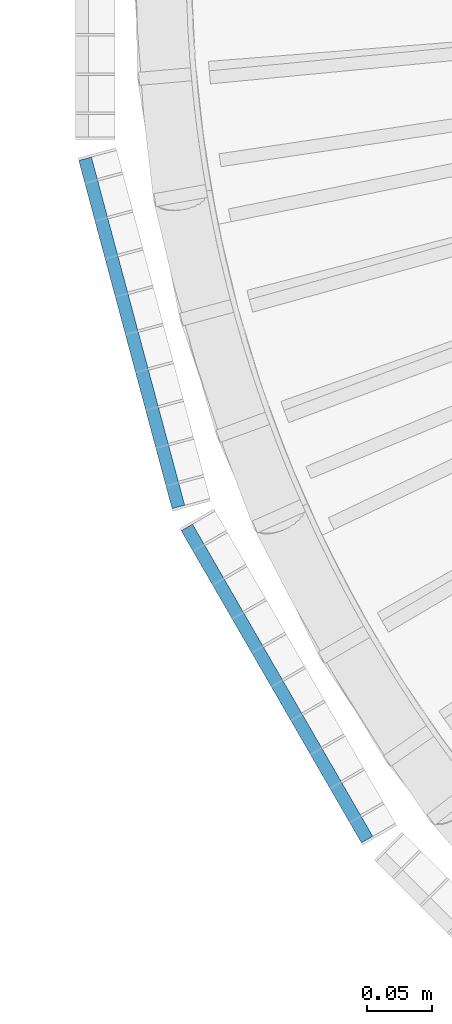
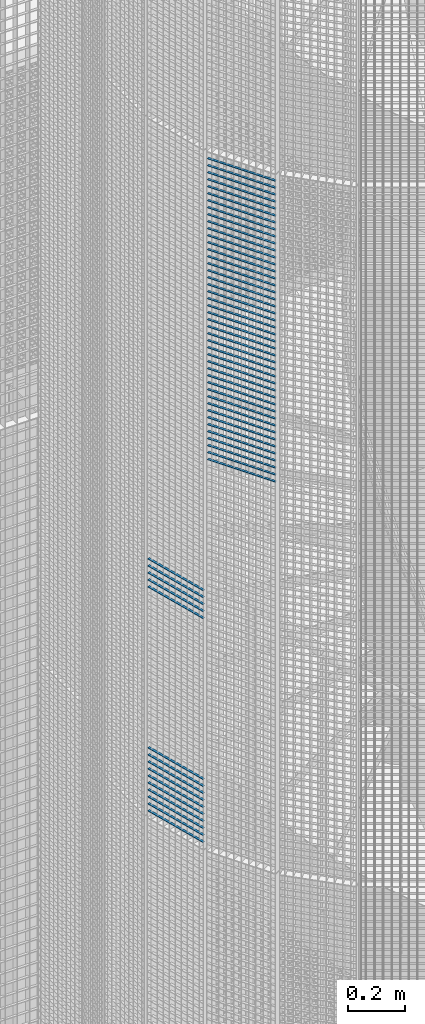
# One storey, part 355 of 1183: 59 beams, 2 elements without a shape of their own.
"""IFC2X3 building model written with IfcOpenShell, lengths in millimetres."""

from ifc_helpers import new_model, si_unit, frame, origin_with_axes, origin_2d_with_axis, place, context, subcontext, project, spatial, rectangle, extrude, material, type_object, element, aggregate, save


model = new_model("IFC2X3")

# Units and contexts
model_context = context("Model", 3, precision=1e-05, world=origin_with_axes())
body_context = subcontext(model_context, "Body", "Model", "MODEL_VIEW")
ifc_project = project(units=[si_unit("LENGTHUNIT", "METRE", prefix="MILLI"), si_unit("AREAUNIT", "SQUARE_METRE"), si_unit("VOLUMEUNIT", "CUBIC_METRE"), si_unit("MASSUNIT", "GRAM", prefix="KILO"), si_unit("TIMEUNIT", "SECOND"), si_unit("PLANEANGLEUNIT", "RADIAN"), si_unit("SOLIDANGLEUNIT", "STERADIAN"), si_unit("THERMODYNAMICTEMPERATUREUNIT", "DEGREE_CELSIUS"), si_unit("LUMINOUSINTENSITYUNIT", "LUMEN")], contexts=[model_context])

# Site, building, storey
site_placement = place(None, origin_with_axes())
site = spatial("IfcSite", under=ifc_project, at=site_placement, Name="Undefined", CompositionType="ELEMENT")
building_placement = place(site_placement, origin_with_axes())
building = spatial("IfcBuilding", under=site, at=building_placement, Name="Undefined", CompositionType="ELEMENT")
storey_placement = place(building_placement, origin_with_axes())
storey = spatial("IfcBuildingStorey", under=building, at=storey_placement, Name="Undefined", CompositionType="ELEMENT", Elevation=0.0)

# Assembly, beams
assembly_1_placement = place(storey_placement, origin_with_axes())
assembly_1 = element("IfcElementAssembly", 1, at=assembly_1_placement, inside=storey, Name="BORDURE", AssemblyPlace="NOTDEFINED", PredefinedType="NOTDEFINED")
ifc_material = material(Name="STEEL/S235JR")
beam_type = type_object("IfcBeamType", Name="PL2*10", PredefinedType="NOTDEFINED")
beam_1_placement = place(assembly_1_placement, frame((20560.1769047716, -421.483733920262, 9300.0), z_axis=(-0.965925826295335, -0.258819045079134, 0.0), x_axis=(-0.258819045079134, 0.965925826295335, 0.0)))
beam_1 = element("IfcBeam", 2, at=beam_1_placement, type_object=beam_type, material=ifc_material, Name="ENTRETOISE", context=body_context, shape_type="SweptSolid", body=[
    extrude(rectangle(XDim=2.0, YDim=10.0, at=origin_2d_with_axis()), frame((275.999999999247, 9.09494701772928e-13, 1.53210777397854e-14), z_axis=(-1.0, 0.0, 0.0), x_axis=(0.0, -1.0, 0.0)), (0.0, 0.0, 1.0), 276.0),
])
beam_2_placement = place(assembly_1_placement, frame((20560.1769047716, -421.483733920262, 9270.0), z_axis=(-0.965925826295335, -0.258819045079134, 0.0), x_axis=(-0.258819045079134, 0.965925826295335, 0.0)))
beam_2 = element("IfcBeam", 3, at=beam_2_placement, type_object=beam_type, material=ifc_material, Name="ENTRETOISE", context=body_context, shape_type="SweptSolid", body=[
    extrude(rectangle(XDim=2.0, YDim=10.0, at=origin_2d_with_axis()), frame((275.999999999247, 9.09494701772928e-13, 1.53210777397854e-14), z_axis=(-1.0, 0.0, 0.0), x_axis=(0.0, -1.0, 0.0)), (0.0, 0.0, 1.0), 276.0),
])
beam_3_placement = place(assembly_1_placement, frame((20560.1769047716, -421.483733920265, 9990.0), z_axis=(-0.965925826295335, -0.258819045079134, 0.0), x_axis=(-0.258819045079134, 0.965925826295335, 0.0)))
beam_3 = element("IfcBeam", 4, at=beam_3_placement, type_object=beam_type, material=ifc_material, Name="ENTRETOISE", context=body_context, shape_type="SweptSolid", body=[
    extrude(rectangle(XDim=2.0, YDim=10.0, at=origin_2d_with_axis()), frame((275.999999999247, 9.09494701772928e-13, 1.53210777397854e-14), z_axis=(-1.0, 0.0, 0.0), x_axis=(0.0, -1.0, 0.0)), (0.0, 0.0, 1.0), 276.0),
])
beam_4_placement = place(assembly_1_placement, frame((20560.1769047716, -421.483733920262, 9240.0), z_axis=(-0.965925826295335, -0.258819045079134, 0.0), x_axis=(-0.258819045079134, 0.965925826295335, 0.0)))
beam_4 = element("IfcBeam", 5, at=beam_4_placement, type_object=beam_type, material=ifc_material, Name="ENTRETOISE", context=body_context, shape_type="SweptSolid", body=[
    extrude(rectangle(XDim=2.0, YDim=10.0, at=origin_2d_with_axis()), frame((275.999999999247, 9.09494701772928e-13, 1.53210777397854e-14), z_axis=(-1.0, 0.0, 0.0), x_axis=(0.0, -1.0, 0.0)), (0.0, 0.0, 1.0), 276.0),
])
beam_5_placement = place(assembly_1_placement, frame((20560.1769047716, -421.483733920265, 10020.0), z_axis=(-0.965925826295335, -0.258819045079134, 0.0), x_axis=(-0.258819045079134, 0.965925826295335, 0.0)))
beam_5 = element("IfcBeam", 6, at=beam_5_placement, type_object=beam_type, material=ifc_material, Name="ENTRETOISE", context=body_context, shape_type="SweptSolid", body=[
    extrude(rectangle(XDim=2.0, YDim=10.0, at=origin_2d_with_axis()), frame((275.999999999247, 9.09494701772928e-13, 1.53210777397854e-14), z_axis=(-1.0, 0.0, 0.0), x_axis=(0.0, -1.0, 0.0)), (0.0, 0.0, 1.0), 276.0),
])
beam_6_placement = place(assembly_1_placement, frame((20560.1769047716, -421.483733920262, 9210.0), z_axis=(-0.965925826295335, -0.258819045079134, 0.0), x_axis=(-0.258819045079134, 0.965925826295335, 0.0)))
beam_6 = element("IfcBeam", 7, at=beam_6_placement, type_object=beam_type, material=ifc_material, Name="ENTRETOISE", context=body_context, shape_type="SweptSolid", body=[
    extrude(rectangle(XDim=2.0, YDim=10.0, at=origin_2d_with_axis()), frame((275.999999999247, 9.09494701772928e-13, 1.53210777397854e-14), z_axis=(-1.0, 0.0, 0.0), x_axis=(0.0, -1.0, 0.0)), (0.0, 0.0, 1.0), 276.0),
])
beam_7_placement = place(assembly_1_placement, frame((20560.1769047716, -421.483733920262, 9180.0), z_axis=(-0.965925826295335, -0.258819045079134, 0.0), x_axis=(-0.258819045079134, 0.965925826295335, 0.0)))
beam_7 = element("IfcBeam", 8, at=beam_7_placement, type_object=beam_type, material=ifc_material, Name="ENTRETOISE", context=body_context, shape_type="SweptSolid", body=[
    extrude(rectangle(XDim=2.0, YDim=10.0, at=origin_2d_with_axis()), frame((275.999999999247, 9.09494701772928e-13, 1.53210777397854e-14), z_axis=(-1.0, 0.0, 0.0), x_axis=(0.0, -1.0, 0.0)), (0.0, 0.0, 1.0), 276.0),
])
beam_8_placement = place(assembly_1_placement, frame((20560.1769047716, -421.483733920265, 10050.0), z_axis=(-0.965925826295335, -0.258819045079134, 0.0), x_axis=(-0.258819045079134, 0.965925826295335, 0.0)))
beam_8 = element("IfcBeam", 9, at=beam_8_placement, type_object=beam_type, material=ifc_material, Name="ENTRETOISE", context=body_context, shape_type="SweptSolid", body=[
    extrude(rectangle(XDim=2.0, YDim=10.0, at=origin_2d_with_axis()), frame((275.999999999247, 9.09494701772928e-13, 1.53210777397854e-14), z_axis=(-1.0, 0.0, 0.0), x_axis=(0.0, -1.0, 0.0)), (0.0, 0.0, 1.0), 276.0),
])
beam_9_placement = place(assembly_1_placement, frame((20560.1769047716, -421.483733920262, 9150.0), z_axis=(-0.965925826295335, -0.258819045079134, 0.0), x_axis=(-0.258819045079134, 0.965925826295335, 0.0)))
beam_9 = element("IfcBeam", 10, at=beam_9_placement, type_object=beam_type, material=ifc_material, Name="ENTRETOISE", context=body_context, shape_type="SweptSolid", body=[
    extrude(rectangle(XDim=2.0, YDim=10.0, at=origin_2d_with_axis()), frame((275.999999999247, 9.09494701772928e-13, 1.53210777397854e-14), z_axis=(-1.0, 0.0, 0.0), x_axis=(0.0, -1.0, 0.0)), (0.0, 0.0, 1.0), 276.0),
])
beam_10_placement = place(assembly_1_placement, frame((20560.1769047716, -421.483733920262, 9120.0), z_axis=(-0.965925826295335, -0.258819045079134, 0.0), x_axis=(-0.258819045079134, 0.965925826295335, 0.0)))
beam_10 = element("IfcBeam", 11, at=beam_10_placement, type_object=beam_type, material=ifc_material, Name="ENTRETOISE", context=body_context, shape_type="SweptSolid", body=[
    extrude(rectangle(XDim=2.0, YDim=10.0, at=origin_2d_with_axis()), frame((275.999999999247, 9.09494701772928e-13, 1.53210777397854e-14), z_axis=(-1.0, 0.0, 0.0), x_axis=(0.0, -1.0, 0.0)), (0.0, 0.0, 1.0), 276.0),
])
beam_11_placement = place(assembly_1_placement, frame((20560.1769047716, -421.483733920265, 10080.0), z_axis=(-0.965925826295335, -0.258819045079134, 0.0), x_axis=(-0.258819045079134, 0.965925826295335, 0.0)))
beam_11 = element("IfcBeam", 12, at=beam_11_placement, type_object=beam_type, material=ifc_material, Name="ENTRETOISE", context=body_context, shape_type="SweptSolid", body=[
    extrude(rectangle(XDim=2.0, YDim=10.0, at=origin_2d_with_axis()), frame((275.999999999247, 9.09494701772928e-13, 1.53210777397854e-14), z_axis=(-1.0, 0.0, 0.0), x_axis=(0.0, -1.0, 0.0)), (0.0, 0.0, 1.0), 276.0),
])
beam_12_placement = place(assembly_1_placement, frame((20560.1769047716, -421.483733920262, 9090.0), z_axis=(-0.965925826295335, -0.258819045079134, 0.0), x_axis=(-0.258819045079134, 0.965925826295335, 0.0)))
beam_12 = element("IfcBeam", 13, at=beam_12_placement, type_object=beam_type, material=ifc_material, Name="ENTRETOISE", context=body_context, shape_type="SweptSolid", body=[
    extrude(rectangle(XDim=2.0, YDim=10.0, at=origin_2d_with_axis()), frame((275.999999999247, 9.09494701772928e-13, 1.53210777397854e-14), z_axis=(-1.0, 0.0, 0.0), x_axis=(0.0, -1.0, 0.0)), (0.0, 0.0, 1.0), 276.0),
])
beam_13_placement = place(assembly_1_placement, frame((20560.1769047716, -421.483733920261, 9060.0), z_axis=(-0.965925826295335, -0.258819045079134, 0.0), x_axis=(-0.258819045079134, 0.965925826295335, 0.0)))
beam_13 = element("IfcBeam", 14, at=beam_13_placement, type_object=beam_type, material=ifc_material, Name="ENTRETOISE", context=body_context, shape_type="SweptSolid", body=[
    extrude(rectangle(XDim=2.0, YDim=10.0, at=origin_2d_with_axis()), frame((275.999999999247, 9.09494701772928e-13, 1.53210777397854e-14), z_axis=(-1.0, 0.0, 0.0), x_axis=(0.0, -1.0, 0.0)), (0.0, 0.0, 1.0), 276.0),
])
beam_14_placement = place(assembly_1_placement, frame((20560.1769047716, -421.483733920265, 10110.0), z_axis=(-0.965925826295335, -0.258819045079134, 0.0), x_axis=(-0.258819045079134, 0.965925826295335, 0.0)))
beam_14 = element("IfcBeam", 15, at=beam_14_placement, type_object=beam_type, material=ifc_material, Name="ENTRETOISE", context=body_context, shape_type="SweptSolid", body=[
    extrude(rectangle(XDim=2.0, YDim=10.0, at=origin_2d_with_axis()), frame((275.999999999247, 9.09494701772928e-13, 1.53210777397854e-14), z_axis=(-1.0, 0.0, 0.0), x_axis=(0.0, -1.0, 0.0)), (0.0, 0.0, 1.0), 276.0),
])
beam_15_placement = place(assembly_1_placement, frame((20560.1769047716, -421.48373392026, 9030.0), z_axis=(-0.965925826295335, -0.258819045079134, 0.0), x_axis=(-0.258819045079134, 0.965925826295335, 0.0)))
beam_15 = element("IfcBeam", 16, at=beam_15_placement, type_object=beam_type, material=ifc_material, Name="ENTRETOISE", context=body_context, shape_type="SweptSolid", body=[
    extrude(rectangle(XDim=2.0, YDim=10.0, at=origin_2d_with_axis()), frame((275.999999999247, 9.09494701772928e-13, 1.53210777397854e-14), z_axis=(-1.0, 0.0, 0.0), x_axis=(0.0, -1.0, 0.0)), (0.0, 0.0, 1.0), 276.0),
])
aggregate(assembly_1, [beam_1, beam_2, beam_3, beam_4, beam_5, beam_6, beam_7, beam_8, beam_9, beam_10, beam_11, beam_12, beam_13, beam_14, beam_15])

assembly_2_placement = place(storey_placement, origin_with_axes())
assembly_2 = element("IfcElementAssembly", 17, at=assembly_2_placement, inside=storey, Name="BORDURE", AssemblyPlace="NOTDEFINED", PredefinedType="NOTDEFINED")
beam_16_placement = place(assembly_2_placement, frame((20704.6960350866, -676.248044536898, 11970.0), z_axis=(-0.866025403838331, -0.499999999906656, 0.0), x_axis=(-0.49999999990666, 0.866025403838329, 0.0)))
beam_16 = element("IfcBeam", 18, at=beam_16_placement, type_object=beam_type, material=ifc_material, Name="ENTRETOISE", context=body_context, shape_type="SweptSolid", body=[
    extrude(rectangle(XDim=2.0, YDim=10.0, at=origin_2d_with_axis()), frame((275.999999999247, 9.09494701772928e-13, 1.53210777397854e-14), z_axis=(-1.0, 0.0, 0.0), x_axis=(0.0, -1.0, 0.0)), (0.0, 0.0, 1.0), 276.0),
])
beam_17_placement = place(assembly_2_placement, frame((20704.6960350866, -676.248044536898, 11940.0), z_axis=(-0.866025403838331, -0.499999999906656, 0.0), x_axis=(-0.49999999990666, 0.866025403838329, 0.0)))
beam_17 = element("IfcBeam", 19, at=beam_17_placement, type_object=beam_type, material=ifc_material, Name="ENTRETOISE", context=body_context, shape_type="SweptSolid", body=[
    extrude(rectangle(XDim=2.0, YDim=10.0, at=origin_2d_with_axis()), frame((275.999999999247, 9.09494701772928e-13, 1.53210777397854e-14), z_axis=(-1.0, 0.0, 0.0), x_axis=(0.0, -1.0, 0.0)), (0.0, 0.0, 1.0), 276.0),
])
beam_18_placement = place(assembly_2_placement, frame((20704.6960350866, -676.248044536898, 11910.0), z_axis=(-0.866025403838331, -0.499999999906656, 0.0), x_axis=(-0.49999999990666, 0.866025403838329, 0.0)))
beam_18 = element("IfcBeam", 20, at=beam_18_placement, type_object=beam_type, material=ifc_material, Name="ENTRETOISE", context=body_context, shape_type="SweptSolid", body=[
    extrude(rectangle(XDim=2.0, YDim=10.0, at=origin_2d_with_axis()), frame((275.999999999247, 9.09494701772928e-13, 1.53210777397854e-14), z_axis=(-1.0, 0.0, 0.0), x_axis=(0.0, -1.0, 0.0)), (0.0, 0.0, 1.0), 276.0),
])
beam_19_placement = place(assembly_2_placement, frame((20704.6960350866, -676.248044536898, 11880.0), z_axis=(-0.866025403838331, -0.499999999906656, 0.0), x_axis=(-0.49999999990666, 0.866025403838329, 0.0)))
beam_19 = element("IfcBeam", 21, at=beam_19_placement, type_object=beam_type, material=ifc_material, Name="ENTRETOISE", context=body_context, shape_type="SweptSolid", body=[
    extrude(rectangle(XDim=2.0, YDim=10.0, at=origin_2d_with_axis()), frame((275.999999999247, 9.09494701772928e-13, 1.53210777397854e-14), z_axis=(-1.0, 0.0, 0.0), x_axis=(0.0, -1.0, 0.0)), (0.0, 0.0, 1.0), 276.0),
])
beam_20_placement = place(assembly_2_placement, frame((20704.6960350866, -676.248044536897, 11850.0), z_axis=(-0.866025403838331, -0.499999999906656, 0.0), x_axis=(-0.49999999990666, 0.866025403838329, 0.0)))
beam_20 = element("IfcBeam", 22, at=beam_20_placement, type_object=beam_type, material=ifc_material, Name="ENTRETOISE", context=body_context, shape_type="SweptSolid", body=[
    extrude(rectangle(XDim=2.0, YDim=10.0, at=origin_2d_with_axis()), frame((275.999999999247, 9.09494701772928e-13, 1.53210777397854e-14), z_axis=(-1.0, 0.0, 0.0), x_axis=(0.0, -1.0, 0.0)), (0.0, 0.0, 1.0), 276.0),
])
beam_21_placement = place(assembly_2_placement, frame((20704.6960350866, -676.248044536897, 11820.0), z_axis=(-0.866025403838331, -0.499999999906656, 0.0), x_axis=(-0.49999999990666, 0.866025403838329, 0.0)))
beam_21 = element("IfcBeam", 23, at=beam_21_placement, type_object=beam_type, material=ifc_material, Name="ENTRETOISE", context=body_context, shape_type="SweptSolid", body=[
    extrude(rectangle(XDim=2.0, YDim=10.0, at=origin_2d_with_axis()), frame((275.999999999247, 9.09494701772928e-13, 1.53210777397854e-14), z_axis=(-1.0, 0.0, 0.0), x_axis=(0.0, -1.0, 0.0)), (0.0, 0.0, 1.0), 276.0),
])
beam_22_placement = place(assembly_2_placement, frame((20704.6960350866, -676.248044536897, 11790.0), z_axis=(-0.866025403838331, -0.499999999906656, 0.0), x_axis=(-0.49999999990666, 0.866025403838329, 0.0)))
beam_22 = element("IfcBeam", 24, at=beam_22_placement, type_object=beam_type, material=ifc_material, Name="ENTRETOISE", context=body_context, shape_type="SweptSolid", body=[
    extrude(rectangle(XDim=2.0, YDim=10.0, at=origin_2d_with_axis()), frame((275.999999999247, 9.09494701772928e-13, 1.53210777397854e-14), z_axis=(-1.0, 0.0, 0.0), x_axis=(0.0, -1.0, 0.0)), (0.0, 0.0, 1.0), 276.0),
])
beam_23_placement = place(assembly_2_placement, frame((20704.6960350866, -676.248044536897, 11760.0), z_axis=(-0.866025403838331, -0.499999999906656, 0.0), x_axis=(-0.49999999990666, 0.866025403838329, 0.0)))
beam_23 = element("IfcBeam", 25, at=beam_23_placement, type_object=beam_type, material=ifc_material, Name="ENTRETOISE", context=body_context, shape_type="SweptSolid", body=[
    extrude(rectangle(XDim=2.0, YDim=10.0, at=origin_2d_with_axis()), frame((275.999999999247, 9.09494701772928e-13, 1.53210777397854e-14), z_axis=(-1.0, 0.0, 0.0), x_axis=(0.0, -1.0, 0.0)), (0.0, 0.0, 1.0), 276.0),
])
beam_24_placement = place(assembly_2_placement, frame((20704.6960350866, -676.248044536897, 11730.0), z_axis=(-0.866025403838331, -0.499999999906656, 0.0), x_axis=(-0.49999999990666, 0.866025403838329, 0.0)))
beam_24 = element("IfcBeam", 26, at=beam_24_placement, type_object=beam_type, material=ifc_material, Name="ENTRETOISE", context=body_context, shape_type="SweptSolid", body=[
    extrude(rectangle(XDim=2.0, YDim=10.0, at=origin_2d_with_axis()), frame((275.999999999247, 9.09494701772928e-13, 1.53210777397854e-14), z_axis=(-1.0, 0.0, 0.0), x_axis=(0.0, -1.0, 0.0)), (0.0, 0.0, 1.0), 276.0),
])
beam_25_placement = place(assembly_2_placement, frame((20704.6960350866, -676.248044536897, 11700.0), z_axis=(-0.866025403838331, -0.499999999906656, 0.0), x_axis=(-0.49999999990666, 0.866025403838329, 0.0)))
beam_25 = element("IfcBeam", 27, at=beam_25_placement, type_object=beam_type, material=ifc_material, Name="ENTRETOISE", context=body_context, shape_type="SweptSolid", body=[
    extrude(rectangle(XDim=2.0, YDim=10.0, at=origin_2d_with_axis()), frame((275.999999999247, 9.09494701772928e-13, 1.53210777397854e-14), z_axis=(-1.0, 0.0, 0.0), x_axis=(0.0, -1.0, 0.0)), (0.0, 0.0, 1.0), 276.0),
])
beam_26_placement = place(assembly_2_placement, frame((20704.6960350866, -676.248044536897, 11670.0), z_axis=(-0.866025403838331, -0.499999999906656, 0.0), x_axis=(-0.49999999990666, 0.866025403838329, 0.0)))
beam_26 = element("IfcBeam", 28, at=beam_26_placement, type_object=beam_type, material=ifc_material, Name="ENTRETOISE", context=body_context, shape_type="SweptSolid", body=[
    extrude(rectangle(XDim=2.0, YDim=10.0, at=origin_2d_with_axis()), frame((275.999999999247, 9.09494701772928e-13, 1.53210777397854e-14), z_axis=(-1.0, 0.0, 0.0), x_axis=(0.0, -1.0, 0.0)), (0.0, 0.0, 1.0), 276.0),
])
beam_27_placement = place(assembly_2_placement, frame((20704.6960350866, -676.248044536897, 11640.0), z_axis=(-0.866025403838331, -0.499999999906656, 0.0), x_axis=(-0.49999999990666, 0.866025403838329, 0.0)))
beam_27 = element("IfcBeam", 29, at=beam_27_placement, type_object=beam_type, material=ifc_material, Name="ENTRETOISE", context=body_context, shape_type="SweptSolid", body=[
    extrude(rectangle(XDim=2.0, YDim=10.0, at=origin_2d_with_axis()), frame((275.999999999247, 9.09494701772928e-13, 1.53210777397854e-14), z_axis=(-1.0, 0.0, 0.0), x_axis=(0.0, -1.0, 0.0)), (0.0, 0.0, 1.0), 276.0),
])
beam_28_placement = place(assembly_2_placement, frame((20704.6960350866, -676.248044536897, 11610.0), z_axis=(-0.866025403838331, -0.499999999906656, 0.0), x_axis=(-0.49999999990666, 0.866025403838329, 0.0)))
beam_28 = element("IfcBeam", 30, at=beam_28_placement, type_object=beam_type, material=ifc_material, Name="ENTRETOISE", context=body_context, shape_type="SweptSolid", body=[
    extrude(rectangle(XDim=2.0, YDim=10.0, at=origin_2d_with_axis()), frame((275.999999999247, 9.09494701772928e-13, 1.53210777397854e-14), z_axis=(-1.0, 0.0, 0.0), x_axis=(0.0, -1.0, 0.0)), (0.0, 0.0, 1.0), 276.0),
])
beam_29_placement = place(assembly_2_placement, frame((20704.6960350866, -676.248044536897, 11580.0), z_axis=(-0.866025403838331, -0.499999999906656, 0.0), x_axis=(-0.49999999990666, 0.866025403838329, 0.0)))
beam_29 = element("IfcBeam", 31, at=beam_29_placement, type_object=beam_type, material=ifc_material, Name="ENTRETOISE", context=body_context, shape_type="SweptSolid", body=[
    extrude(rectangle(XDim=2.0, YDim=10.0, at=origin_2d_with_axis()), frame((275.999999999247, 9.09494701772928e-13, 1.53210777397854e-14), z_axis=(-1.0, 0.0, 0.0), x_axis=(0.0, -1.0, 0.0)), (0.0, 0.0, 1.0), 276.0),
])
beam_30_placement = place(assembly_2_placement, frame((20704.6960350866, -676.248044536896, 11550.0), z_axis=(-0.866025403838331, -0.499999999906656, 0.0), x_axis=(-0.49999999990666, 0.866025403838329, 0.0)))
beam_30 = element("IfcBeam", 32, at=beam_30_placement, type_object=beam_type, material=ifc_material, Name="ENTRETOISE", context=body_context, shape_type="SweptSolid", body=[
    extrude(rectangle(XDim=2.0, YDim=10.0, at=origin_2d_with_axis()), frame((275.999999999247, 9.09494701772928e-13, 1.53210777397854e-14), z_axis=(-1.0, 0.0, 0.0), x_axis=(0.0, -1.0, 0.0)), (0.0, 0.0, 1.0), 276.0),
])
beam_31_placement = place(assembly_2_placement, frame((20704.6960350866, -676.248044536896, 11520.0), z_axis=(-0.866025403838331, -0.499999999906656, 0.0), x_axis=(-0.49999999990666, 0.866025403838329, 0.0)))
beam_31 = element("IfcBeam", 33, at=beam_31_placement, type_object=beam_type, material=ifc_material, Name="ENTRETOISE", context=body_context, shape_type="SweptSolid", body=[
    extrude(rectangle(XDim=2.0, YDim=10.0, at=origin_2d_with_axis()), frame((275.999999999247, 9.09494701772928e-13, 1.53210777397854e-14), z_axis=(-1.0, 0.0, 0.0), x_axis=(0.0, -1.0, 0.0)), (0.0, 0.0, 1.0), 276.0),
])
beam_32_placement = place(assembly_2_placement, frame((20704.6960350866, -676.248044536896, 11490.0), z_axis=(-0.866025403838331, -0.499999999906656, 0.0), x_axis=(-0.49999999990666, 0.866025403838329, 0.0)))
beam_32 = element("IfcBeam", 34, at=beam_32_placement, type_object=beam_type, material=ifc_material, Name="ENTRETOISE", context=body_context, shape_type="SweptSolid", body=[
    extrude(rectangle(XDim=2.0, YDim=10.0, at=origin_2d_with_axis()), frame((275.999999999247, 9.09494701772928e-13, 1.53210777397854e-14), z_axis=(-1.0, 0.0, 0.0), x_axis=(0.0, -1.0, 0.0)), (0.0, 0.0, 1.0), 276.0),
])
beam_33_placement = place(assembly_2_placement, frame((20704.6960350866, -676.248044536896, 11460.0), z_axis=(-0.866025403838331, -0.499999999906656, 0.0), x_axis=(-0.49999999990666, 0.866025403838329, 0.0)))
beam_33 = element("IfcBeam", 35, at=beam_33_placement, type_object=beam_type, material=ifc_material, Name="ENTRETOISE", context=body_context, shape_type="SweptSolid", body=[
    extrude(rectangle(XDim=2.0, YDim=10.0, at=origin_2d_with_axis()), frame((275.999999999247, 9.09494701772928e-13, 1.53210777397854e-14), z_axis=(-1.0, 0.0, 0.0), x_axis=(0.0, -1.0, 0.0)), (0.0, 0.0, 1.0), 276.0),
])
beam_34_placement = place(assembly_2_placement, frame((20704.6960350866, -676.248044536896, 11430.0), z_axis=(-0.866025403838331, -0.499999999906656, 0.0), x_axis=(-0.49999999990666, 0.866025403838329, 0.0)))
beam_34 = element("IfcBeam", 36, at=beam_34_placement, type_object=beam_type, material=ifc_material, Name="ENTRETOISE", context=body_context, shape_type="SweptSolid", body=[
    extrude(rectangle(XDim=2.0, YDim=10.0, at=origin_2d_with_axis()), frame((275.999999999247, 9.09494701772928e-13, 1.53210777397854e-14), z_axis=(-1.0, 0.0, 0.0), x_axis=(0.0, -1.0, 0.0)), (0.0, 0.0, 1.0), 276.0),
])
beam_35_placement = place(assembly_2_placement, frame((20704.6960350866, -676.248044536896, 11400.0), z_axis=(-0.866025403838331, -0.499999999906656, 0.0), x_axis=(-0.49999999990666, 0.866025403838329, 0.0)))
beam_35 = element("IfcBeam", 37, at=beam_35_placement, type_object=beam_type, material=ifc_material, Name="ENTRETOISE", context=body_context, shape_type="SweptSolid", body=[
    extrude(rectangle(XDim=2.0, YDim=10.0, at=origin_2d_with_axis()), frame((275.999999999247, 9.09494701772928e-13, 1.53210777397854e-14), z_axis=(-1.0, 0.0, 0.0), x_axis=(0.0, -1.0, 0.0)), (0.0, 0.0, 1.0), 276.0),
])
beam_36_placement = place(assembly_2_placement, frame((20704.6960350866, -676.248044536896, 11370.0), z_axis=(-0.866025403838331, -0.499999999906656, 0.0), x_axis=(-0.49999999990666, 0.866025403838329, 0.0)))
beam_36 = element("IfcBeam", 38, at=beam_36_placement, type_object=beam_type, material=ifc_material, Name="ENTRETOISE", context=body_context, shape_type="SweptSolid", body=[
    extrude(rectangle(XDim=2.0, YDim=10.0, at=origin_2d_with_axis()), frame((275.999999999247, 9.09494701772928e-13, 1.53210777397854e-14), z_axis=(-1.0, 0.0, 0.0), x_axis=(0.0, -1.0, 0.0)), (0.0, 0.0, 1.0), 276.0),
])
beam_37_placement = place(assembly_2_placement, frame((20704.6960350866, -676.248044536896, 11340.0), z_axis=(-0.866025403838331, -0.499999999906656, 0.0), x_axis=(-0.49999999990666, 0.866025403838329, 0.0)))
beam_37 = element("IfcBeam", 39, at=beam_37_placement, type_object=beam_type, material=ifc_material, Name="ENTRETOISE", context=body_context, shape_type="SweptSolid", body=[
    extrude(rectangle(XDim=2.0, YDim=10.0, at=origin_2d_with_axis()), frame((275.999999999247, 9.09494701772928e-13, 1.53210777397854e-14), z_axis=(-1.0, 0.0, 0.0), x_axis=(0.0, -1.0, 0.0)), (0.0, 0.0, 1.0), 276.0),
])
beam_38_placement = place(assembly_2_placement, frame((20704.6960350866, -676.248044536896, 11310.0), z_axis=(-0.866025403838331, -0.499999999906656, 0.0), x_axis=(-0.49999999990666, 0.866025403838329, 0.0)))
beam_38 = element("IfcBeam", 40, at=beam_38_placement, type_object=beam_type, material=ifc_material, Name="ENTRETOISE", context=body_context, shape_type="SweptSolid", body=[
    extrude(rectangle(XDim=2.0, YDim=10.0, at=origin_2d_with_axis()), frame((275.999999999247, 9.09494701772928e-13, 1.53210777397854e-14), z_axis=(-1.0, 0.0, 0.0), x_axis=(0.0, -1.0, 0.0)), (0.0, 0.0, 1.0), 276.0),
])
beam_39_placement = place(assembly_2_placement, frame((20704.6960350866, -676.248044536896, 11280.0), z_axis=(-0.866025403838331, -0.499999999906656, 0.0), x_axis=(-0.49999999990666, 0.866025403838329, 0.0)))
beam_39 = element("IfcBeam", 41, at=beam_39_placement, type_object=beam_type, material=ifc_material, Name="ENTRETOISE", context=body_context, shape_type="SweptSolid", body=[
    extrude(rectangle(XDim=2.0, YDim=10.0, at=origin_2d_with_axis()), frame((275.999999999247, 9.09494701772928e-13, 1.53210777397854e-14), z_axis=(-1.0, 0.0, 0.0), x_axis=(0.0, -1.0, 0.0)), (0.0, 0.0, 1.0), 276.0),
])
beam_40_placement = place(assembly_2_placement, frame((20704.6960350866, -676.248044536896, 11250.0), z_axis=(-0.866025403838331, -0.499999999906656, 0.0), x_axis=(-0.49999999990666, 0.866025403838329, 0.0)))
beam_40 = element("IfcBeam", 42, at=beam_40_placement, type_object=beam_type, material=ifc_material, Name="ENTRETOISE", context=body_context, shape_type="SweptSolid", body=[
    extrude(rectangle(XDim=2.0, YDim=10.0, at=origin_2d_with_axis()), frame((275.999999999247, 9.09494701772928e-13, 1.53210777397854e-14), z_axis=(-1.0, 0.0, 0.0), x_axis=(0.0, -1.0, 0.0)), (0.0, 0.0, 1.0), 276.0),
])
beam_41_placement = place(assembly_2_placement, frame((20704.6960350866, -676.248044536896, 11220.0), z_axis=(-0.866025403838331, -0.499999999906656, 0.0), x_axis=(-0.49999999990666, 0.866025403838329, 0.0)))
beam_41 = element("IfcBeam", 43, at=beam_41_placement, type_object=beam_type, material=ifc_material, Name="ENTRETOISE", context=body_context, shape_type="SweptSolid", body=[
    extrude(rectangle(XDim=2.0, YDim=10.0, at=origin_2d_with_axis()), frame((275.999999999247, 9.09494701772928e-13, 1.53210777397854e-14), z_axis=(-1.0, 0.0, 0.0), x_axis=(0.0, -1.0, 0.0)), (0.0, 0.0, 1.0), 276.0),
])
beam_42_placement = place(assembly_2_placement, frame((20704.6960350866, -676.248044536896, 11190.0), z_axis=(-0.866025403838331, -0.499999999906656, 0.0), x_axis=(-0.49999999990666, 0.866025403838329, 0.0)))
beam_42 = element("IfcBeam", 44, at=beam_42_placement, type_object=beam_type, material=ifc_material, Name="ENTRETOISE", context=body_context, shape_type="SweptSolid", body=[
    extrude(rectangle(XDim=2.0, YDim=10.0, at=origin_2d_with_axis()), frame((275.999999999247, 9.09494701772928e-13, 1.53210777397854e-14), z_axis=(-1.0, 0.0, 0.0), x_axis=(0.0, -1.0, 0.0)), (0.0, 0.0, 1.0), 276.0),
])
beam_43_placement = place(assembly_2_placement, frame((20704.6960350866, -676.248044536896, 11160.0), z_axis=(-0.866025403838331, -0.499999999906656, 0.0), x_axis=(-0.49999999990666, 0.866025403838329, 0.0)))
beam_43 = element("IfcBeam", 45, at=beam_43_placement, type_object=beam_type, material=ifc_material, Name="ENTRETOISE", context=body_context, shape_type="SweptSolid", body=[
    extrude(rectangle(XDim=2.0, YDim=10.0, at=origin_2d_with_axis()), frame((275.999999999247, 9.09494701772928e-13, 1.53210777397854e-14), z_axis=(-1.0, 0.0, 0.0), x_axis=(0.0, -1.0, 0.0)), (0.0, 0.0, 1.0), 276.0),
])
beam_44_placement = place(assembly_2_placement, frame((20704.6960350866, -676.248044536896, 11130.0), z_axis=(-0.866025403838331, -0.499999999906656, 0.0), x_axis=(-0.49999999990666, 0.866025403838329, 0.0)))
beam_44 = element("IfcBeam", 46, at=beam_44_placement, type_object=beam_type, material=ifc_material, Name="ENTRETOISE", context=body_context, shape_type="SweptSolid", body=[
    extrude(rectangle(XDim=2.0, YDim=10.0, at=origin_2d_with_axis()), frame((275.999999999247, 9.09494701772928e-13, 1.53210777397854e-14), z_axis=(-1.0, 0.0, 0.0), x_axis=(0.0, -1.0, 0.0)), (0.0, 0.0, 1.0), 276.0),
])
beam_45_placement = place(assembly_2_placement, frame((20704.6960350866, -676.248044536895, 11100.0), z_axis=(-0.866025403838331, -0.499999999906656, 0.0), x_axis=(-0.49999999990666, 0.866025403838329, 0.0)))
beam_45 = element("IfcBeam", 47, at=beam_45_placement, type_object=beam_type, material=ifc_material, Name="ENTRETOISE", context=body_context, shape_type="SweptSolid", body=[
    extrude(rectangle(XDim=2.0, YDim=10.0, at=origin_2d_with_axis()), frame((275.999999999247, 9.09494701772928e-13, 1.53210777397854e-14), z_axis=(-1.0, 0.0, 0.0), x_axis=(0.0, -1.0, 0.0)), (0.0, 0.0, 1.0), 276.0),
])
beam_46_placement = place(assembly_2_placement, frame((20704.6960350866, -676.248044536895, 11070.0), z_axis=(-0.866025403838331, -0.499999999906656, 0.0), x_axis=(-0.49999999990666, 0.866025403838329, 0.0)))
beam_46 = element("IfcBeam", 48, at=beam_46_placement, type_object=beam_type, material=ifc_material, Name="ENTRETOISE", context=body_context, shape_type="SweptSolid", body=[
    extrude(rectangle(XDim=2.0, YDim=10.0, at=origin_2d_with_axis()), frame((275.999999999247, 9.09494701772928e-13, 1.53210777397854e-14), z_axis=(-1.0, 0.0, 0.0), x_axis=(0.0, -1.0, 0.0)), (0.0, 0.0, 1.0), 276.0),
])
beam_47_placement = place(assembly_2_placement, frame((20704.6960350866, -676.248044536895, 11040.0), z_axis=(-0.866025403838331, -0.499999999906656, 0.0), x_axis=(-0.49999999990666, 0.866025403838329, 0.0)))
beam_47 = element("IfcBeam", 49, at=beam_47_placement, type_object=beam_type, material=ifc_material, Name="ENTRETOISE", context=body_context, shape_type="SweptSolid", body=[
    extrude(rectangle(XDim=2.0, YDim=10.0, at=origin_2d_with_axis()), frame((275.999999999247, 9.09494701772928e-13, 1.53210777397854e-14), z_axis=(-1.0, 0.0, 0.0), x_axis=(0.0, -1.0, 0.0)), (0.0, 0.0, 1.0), 276.0),
])
beam_48_placement = place(assembly_2_placement, frame((20704.6960350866, -676.248044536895, 11010.0), z_axis=(-0.866025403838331, -0.499999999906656, 0.0), x_axis=(-0.49999999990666, 0.866025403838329, 0.0)))
beam_48 = element("IfcBeam", 50, at=beam_48_placement, type_object=beam_type, material=ifc_material, Name="ENTRETOISE", context=body_context, shape_type="SweptSolid", body=[
    extrude(rectangle(XDim=2.0, YDim=10.0, at=origin_2d_with_axis()), frame((275.999999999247, 9.09494701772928e-13, 1.53210777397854e-14), z_axis=(-1.0, 0.0, 0.0), x_axis=(0.0, -1.0, 0.0)), (0.0, 0.0, 1.0), 276.0),
])
beam_49_placement = place(assembly_2_placement, frame((20704.6960350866, -676.248044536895, 10980.0), z_axis=(-0.866025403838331, -0.499999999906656, 0.0), x_axis=(-0.49999999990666, 0.866025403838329, 0.0)))
beam_49 = element("IfcBeam", 51, at=beam_49_placement, type_object=beam_type, material=ifc_material, Name="ENTRETOISE", context=body_context, shape_type="SweptSolid", body=[
    extrude(rectangle(XDim=2.0, YDim=10.0, at=origin_2d_with_axis()), frame((275.999999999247, 9.09494701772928e-13, 1.53210777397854e-14), z_axis=(-1.0, 0.0, 0.0), x_axis=(0.0, -1.0, 0.0)), (0.0, 0.0, 1.0), 276.0),
])
beam_50_placement = place(assembly_2_placement, frame((20704.6960350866, -676.248044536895, 10950.0), z_axis=(-0.866025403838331, -0.499999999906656, 0.0), x_axis=(-0.49999999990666, 0.866025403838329, 0.0)))
beam_50 = element("IfcBeam", 52, at=beam_50_placement, type_object=beam_type, material=ifc_material, Name="ENTRETOISE", context=body_context, shape_type="SweptSolid", body=[
    extrude(rectangle(XDim=2.0, YDim=10.0, at=origin_2d_with_axis()), frame((275.999999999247, 9.09494701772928e-13, 1.53210777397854e-14), z_axis=(-1.0, 0.0, 0.0), x_axis=(0.0, -1.0, 0.0)), (0.0, 0.0, 1.0), 276.0),
])
beam_51_placement = place(assembly_2_placement, frame((20704.6960350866, -676.248044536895, 10920.0), z_axis=(-0.866025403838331, -0.499999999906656, 0.0), x_axis=(-0.49999999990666, 0.866025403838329, 0.0)))
beam_51 = element("IfcBeam", 53, at=beam_51_placement, type_object=beam_type, material=ifc_material, Name="ENTRETOISE", context=body_context, shape_type="SweptSolid", body=[
    extrude(rectangle(XDim=2.0, YDim=10.0, at=origin_2d_with_axis()), frame((275.999999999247, 9.09494701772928e-13, 1.53210777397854e-14), z_axis=(-1.0, 0.0, 0.0), x_axis=(0.0, -1.0, 0.0)), (0.0, 0.0, 1.0), 276.0),
])
beam_52_placement = place(assembly_2_placement, frame((20704.6960350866, -676.248044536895, 10890.0), z_axis=(-0.866025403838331, -0.499999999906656, 0.0), x_axis=(-0.49999999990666, 0.866025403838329, 0.0)))
beam_52 = element("IfcBeam", 54, at=beam_52_placement, type_object=beam_type, material=ifc_material, Name="ENTRETOISE", context=body_context, shape_type="SweptSolid", body=[
    extrude(rectangle(XDim=2.0, YDim=10.0, at=origin_2d_with_axis()), frame((275.999999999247, 9.09494701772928e-13, 1.53210777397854e-14), z_axis=(-1.0, 0.0, 0.0), x_axis=(0.0, -1.0, 0.0)), (0.0, 0.0, 1.0), 276.0),
])
beam_53_placement = place(assembly_2_placement, frame((20704.6960350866, -676.248044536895, 10860.0), z_axis=(-0.866025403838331, -0.499999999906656, 0.0), x_axis=(-0.49999999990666, 0.866025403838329, 0.0)))
beam_53 = element("IfcBeam", 55, at=beam_53_placement, type_object=beam_type, material=ifc_material, Name="ENTRETOISE", context=body_context, shape_type="SweptSolid", body=[
    extrude(rectangle(XDim=2.0, YDim=10.0, at=origin_2d_with_axis()), frame((275.999999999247, 9.09494701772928e-13, 1.53210777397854e-14), z_axis=(-1.0, 0.0, 0.0), x_axis=(0.0, -1.0, 0.0)), (0.0, 0.0, 1.0), 276.0),
])
beam_54_placement = place(assembly_2_placement, frame((20704.6960350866, -676.248044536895, 10830.0), z_axis=(-0.866025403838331, -0.499999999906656, 0.0), x_axis=(-0.49999999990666, 0.866025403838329, 0.0)))
beam_54 = element("IfcBeam", 56, at=beam_54_placement, type_object=beam_type, material=ifc_material, Name="ENTRETOISE", context=body_context, shape_type="SweptSolid", body=[
    extrude(rectangle(XDim=2.0, YDim=10.0, at=origin_2d_with_axis()), frame((275.999999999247, 9.09494701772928e-13, 1.53210777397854e-14), z_axis=(-1.0, 0.0, 0.0), x_axis=(0.0, -1.0, 0.0)), (0.0, 0.0, 1.0), 276.0),
])
beam_55_placement = place(assembly_2_placement, frame((20704.6960350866, -676.248044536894, 10800.0), z_axis=(-0.866025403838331, -0.499999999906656, 0.0), x_axis=(-0.49999999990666, 0.866025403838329, 0.0)))
beam_55 = element("IfcBeam", 57, at=beam_55_placement, type_object=beam_type, material=ifc_material, Name="ENTRETOISE", context=body_context, shape_type="SweptSolid", body=[
    extrude(rectangle(XDim=2.0, YDim=10.0, at=origin_2d_with_axis()), frame((275.999999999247, 9.09494701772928e-13, 1.53210777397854e-14), z_axis=(-1.0, 0.0, 0.0), x_axis=(0.0, -1.0, 0.0)), (0.0, 0.0, 1.0), 276.0),
])
beam_56_placement = place(assembly_2_placement, frame((20704.6960350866, -676.248044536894, 10770.0), z_axis=(-0.866025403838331, -0.499999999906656, 0.0), x_axis=(-0.49999999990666, 0.866025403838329, 0.0)))
beam_56 = element("IfcBeam", 58, at=beam_56_placement, type_object=beam_type, material=ifc_material, Name="ENTRETOISE", context=body_context, shape_type="SweptSolid", body=[
    extrude(rectangle(XDim=2.0, YDim=10.0, at=origin_2d_with_axis()), frame((275.999999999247, 9.09494701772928e-13, 1.53210777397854e-14), z_axis=(-1.0, 0.0, 0.0), x_axis=(0.0, -1.0, 0.0)), (0.0, 0.0, 1.0), 276.0),
])
beam_57_placement = place(assembly_2_placement, frame((20704.6960350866, -676.248044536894, 10740.0), z_axis=(-0.866025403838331, -0.499999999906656, 0.0), x_axis=(-0.49999999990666, 0.866025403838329, 0.0)))
beam_57 = element("IfcBeam", 59, at=beam_57_placement, type_object=beam_type, material=ifc_material, Name="ENTRETOISE", context=body_context, shape_type="SweptSolid", body=[
    extrude(rectangle(XDim=2.0, YDim=10.0, at=origin_2d_with_axis()), frame((275.999999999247, 9.09494701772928e-13, 1.53210777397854e-14), z_axis=(-1.0, 0.0, 0.0), x_axis=(0.0, -1.0, 0.0)), (0.0, 0.0, 1.0), 276.0),
])
beam_58_placement = place(assembly_2_placement, frame((20704.6960350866, -676.248044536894, 10710.0), z_axis=(-0.866025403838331, -0.499999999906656, 0.0), x_axis=(-0.49999999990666, 0.866025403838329, 0.0)))
beam_58 = element("IfcBeam", 60, at=beam_58_placement, type_object=beam_type, material=ifc_material, Name="ENTRETOISE", context=body_context, shape_type="SweptSolid", body=[
    extrude(rectangle(XDim=2.0, YDim=10.0, at=origin_2d_with_axis()), frame((275.999999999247, 9.09494701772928e-13, 1.53210777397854e-14), z_axis=(-1.0, 0.0, 0.0), x_axis=(0.0, -1.0, 0.0)), (0.0, 0.0, 1.0), 276.0),
])
beam_59_placement = place(assembly_2_placement, frame((20704.6960350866, -676.248044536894, 10680.0), z_axis=(-0.866025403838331, -0.499999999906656, 0.0), x_axis=(-0.49999999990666, 0.866025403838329, 0.0)))
beam_59 = element("IfcBeam", 61, at=beam_59_placement, type_object=beam_type, material=ifc_material, Name="ENTRETOISE", context=body_context, shape_type="SweptSolid", body=[
    extrude(rectangle(XDim=2.0, YDim=10.0, at=origin_2d_with_axis()), frame((275.999999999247, 9.09494701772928e-13, 1.53210777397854e-14), z_axis=(-1.0, 0.0, 0.0), x_axis=(0.0, -1.0, 0.0)), (0.0, 0.0, 1.0), 276.0),
])
aggregate(assembly_2, [beam_16, beam_17, beam_18, beam_19, beam_20, beam_21, beam_22, beam_23, beam_24, beam_25, beam_26, beam_27, beam_28, beam_29, beam_30, beam_31, beam_32, beam_33, beam_34, beam_35, beam_36, beam_37, beam_38, beam_39, beam_40, beam_41, beam_42, beam_43, beam_44, beam_45, beam_46, beam_47, beam_48, beam_49, beam_50, beam_51, beam_52, beam_53, beam_54, beam_55, beam_56, beam_57, beam_58, beam_59])

save(model, "model.ifc")
